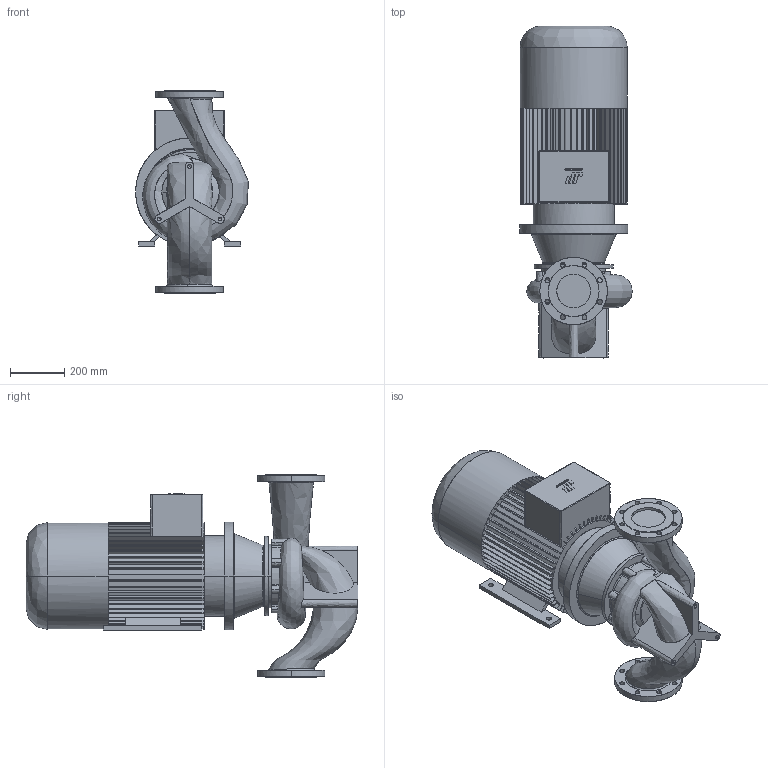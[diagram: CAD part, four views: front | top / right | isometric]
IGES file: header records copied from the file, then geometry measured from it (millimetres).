
Start section: CombiLine
Global section: file name: CLB_125-200_IEC200L_ND10.igs; native system:  By UGS Corp.; preprocessor: XPlus GENERIC/IGES 3.0; author: Stageplaats; organization: Johnson Pump Water B.V.; date: 20070717.133713; units: millimetre
Bounding box: 417.64 x 1229 x 750 mm (x, y, z)
Surface area: 3153333.1 mm2 (no closed solid volume)
Topology: 0 solids, 0 shells, 608 faces, 3685 edges, 3679 vertices
Faces by surface type: bspline 608
